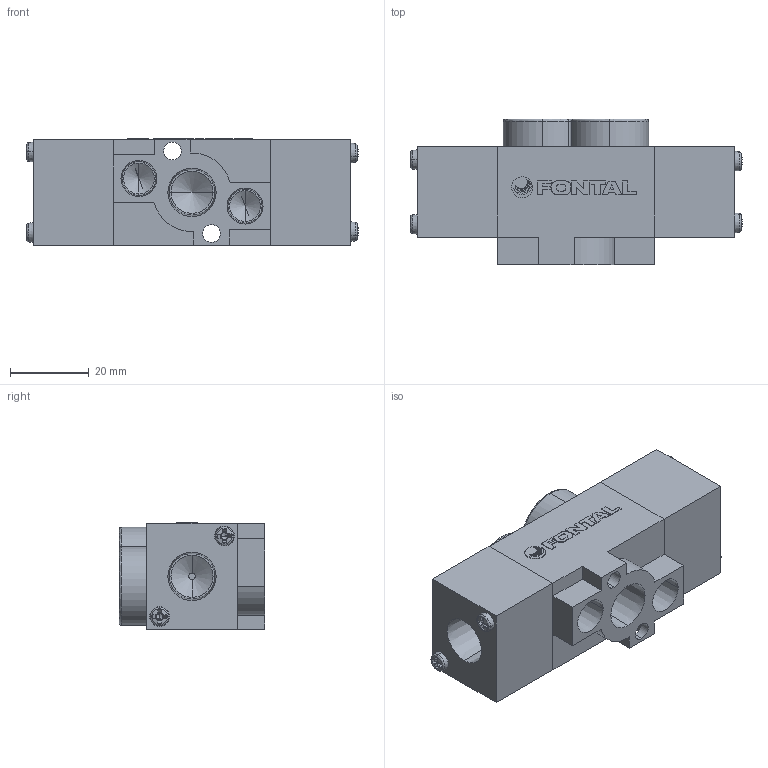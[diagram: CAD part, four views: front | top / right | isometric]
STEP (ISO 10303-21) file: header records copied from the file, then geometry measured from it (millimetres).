
FILE_DESCRIPTION (( 'STEP AP203' ), '1' );
FILE_NAME ('YCD2406-02.STEP', '2016-08-08T01:31:26', ( '' ), ( '' ), 'SwSTEP 2.0', 'SolidWorks 2014', '' );
FILE_SCHEMA (( 'CONFIG_CONTROL_DESIGN' ));
Length unit declared in the file: millimetre
Products named in the file (5): YCD2406-02; PC06-MARK_23; YCS-2406-02; PC6-M3_59; RC06-1_8
Assembly tree (8 placements, depth 2):
  YCD2406-02
    PC06-MARK_23
    RC06-1_8
    PC6-M3_59  x4
    YCS-2406-02  x2
Bounding box: 84.49 x 37 x 27.15 mm (x, y, z)
Volume: 45411.2 mm3; surface area: 19270.1 mm2
Topology: 14 solids, 14 shells, 367 faces, 915 edges, 574 vertices
Faces by surface type: plane 195, cylinder 67, cone 64, bspline 41
Entity records: 8417 total; most frequent: CARTESIAN_POINT 1863, ORIENTED_EDGE 1238, DIRECTION 1205, EDGE_CURVE 619, AXIS2_PLACEMENT_3D 409, VERTEX_POINT 403, LINE 387, VECTOR 387
